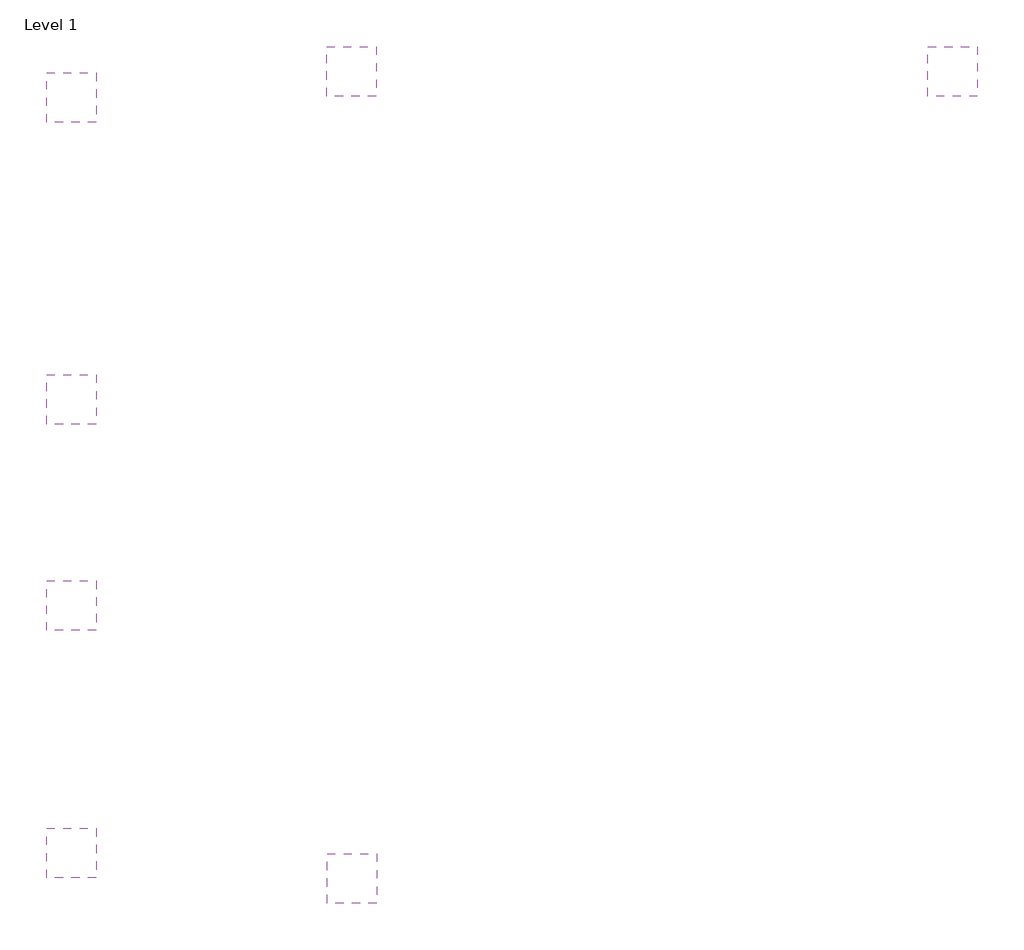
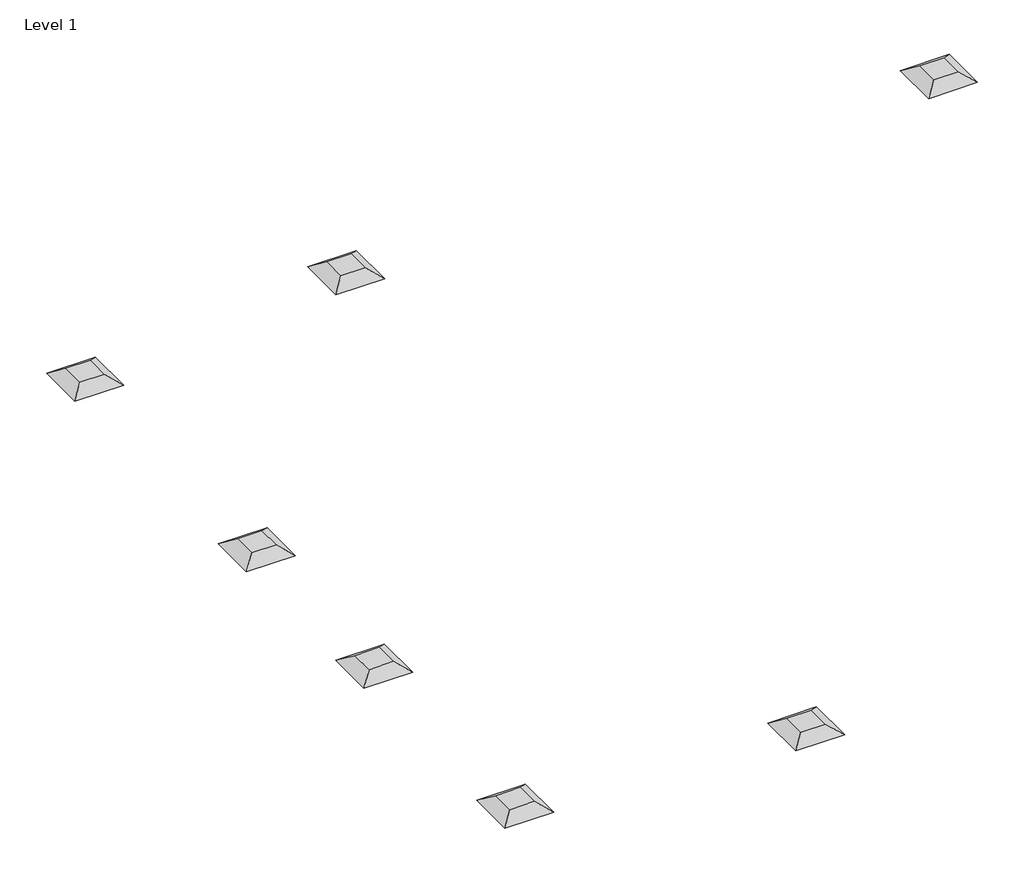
# One storey: 7 air terminals.
"""IFC4 building model written with IfcOpenShell, lengths in millimetres."""

from ifc_helpers import new_model, si_unit, origin, place, context, project, spatial, transform, mapped, element, save
from components import m_exhaust_diffuser_hosted_workplane_based_exhaust_diffuser_735a5a32

model = new_model("IFC4")

# Units and contexts
model_context = context("Model", 3, world=origin())
ifc_project = project(units=[si_unit("LENGTHUNIT", "METRE", prefix="MILLI")], contexts=[model_context])

# Site, building, storey
site = spatial("IfcSite", under=ifc_project)
building = spatial("IfcBuilding", under=site)
storey = spatial("IfcBuildingStorey", under=building, Name="Level 1", Elevation=0.0)

# Air terminals
placement = place(None, origin())
m_exhaust_diffuser_hosted_workplane_based_exhaust_diffuser_shape = m_exhaust_diffuser_hosted_workplane_based_exhaust_diffuser_735a5a32(model_context)
element("IfcAirTerminal", 1, ObjectType="M_Exhaust Diffuser - Hosted : Workplane-based Exhaust Diffuser", at=placement, inside=storey, context=model_context, shape_type="MappedRepresentation", body=[
    mapped(m_exhaust_diffuser_hosted_workplane_based_exhaust_diffuser_shape, transform((8190.2613555, -11692.6143963, 2514.6), x_axis=(0.0, -1.0, 0.0), y_axis=(-1.0, 0.0, 0.0), z_axis=(0.0, 0.0, -1.0))),
])
element("IfcAirTerminal", 2, ObjectType="M_Return Diffuser - Hosted : Workplane-based Return Diffuser", at=placement, inside=storey, context=model_context, shape_type="MappedRepresentation", body=[
    mapped(m_exhaust_diffuser_hosted_workplane_based_exhaust_diffuser_shape, transform((900.6408223, -11692.6143963, 2514.6), x_axis=(0.0, -1.0, 0.0), y_axis=(-1.0, 0.0, 0.0), z_axis=(0.0, 0.0, -1.0))),
])
element("IfcAirTerminal", 3, ObjectType="M_Return Diffuser - Hosted : Workplane-based Return Diffuser", at=placement, inside=storey, context=model_context, shape_type="MappedRepresentation", body=[
    mapped(m_exhaust_diffuser_hosted_workplane_based_exhaust_diffuser_shape, transform((908.3166289, -21475.3703916, 2514.6), x_axis=(0.0, -1.0, 0.0), y_axis=(-1.0, 0.0, 0.0), z_axis=(0.0, 0.0, -1.0))),
])
element("IfcAirTerminal", 4, ObjectType="M_Supply Diffuser - Hosted : Workplane-based Supply Diffuser", at=placement, inside=storey, context=model_context, shape_type="MappedRepresentation", body=[
    mapped(m_exhaust_diffuser_hosted_workplane_based_exhaust_diffuser_shape, transform((-2493.8628061, -12011.8172855, 2514.6), x_axis=(-1.0, 0.0, 0.0), y_axis=(0.0, 1.0, 0.0), z_axis=(0.0, 0.0, -1.0))),
])
element("IfcAirTerminal", 5, ObjectType="M_Supply Diffuser - Hosted : Workplane-based Supply Diffuser", at=placement, inside=storey, context=model_context, shape_type="MappedRepresentation", body=[
    mapped(m_exhaust_diffuser_hosted_workplane_based_exhaust_diffuser_shape, transform((-2493.8628061, -15669.8172855, 2514.6), x_axis=(-1.0, 0.0, 0.0), y_axis=(0.0, 1.0, 0.0), z_axis=(0.0, 0.0, -1.0))),
])
element("IfcAirTerminal", 6, ObjectType="M_Supply Diffuser - Hosted : Workplane-based Supply Diffuser", at=placement, inside=storey, context=model_context, shape_type="MappedRepresentation", body=[
    mapped(m_exhaust_diffuser_hosted_workplane_based_exhaust_diffuser_shape, transform((-2493.8628061, -18169.8172855, 2514.6), x_axis=(-1.0, 0.0, 0.0), y_axis=(0.0, 1.0, 0.0), z_axis=(0.0, 0.0, -1.0))),
])
element("IfcAirTerminal", 7, ObjectType="M_Supply Diffuser - Hosted : Workplane-based Supply Diffuser", at=placement, inside=storey, context=model_context, shape_type="MappedRepresentation", body=[
    mapped(m_exhaust_diffuser_hosted_workplane_based_exhaust_diffuser_shape, transform((-2493.8628061, -21169.8172855, 2514.6), x_axis=(-1.0, 0.0, 0.0), y_axis=(0.0, 1.0, 0.0), z_axis=(0.0, 0.0, -1.0))),
])

save(model, "model.ifc")
